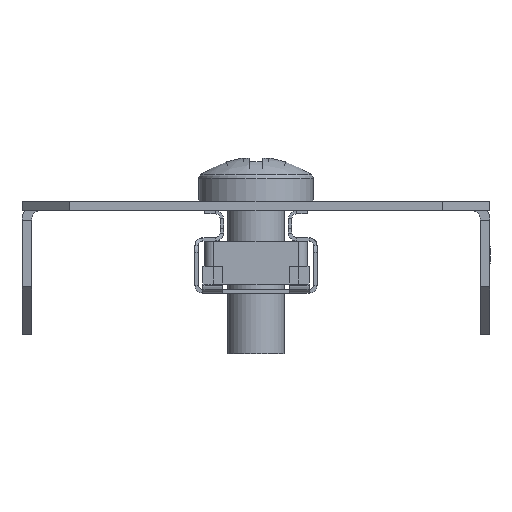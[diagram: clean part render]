
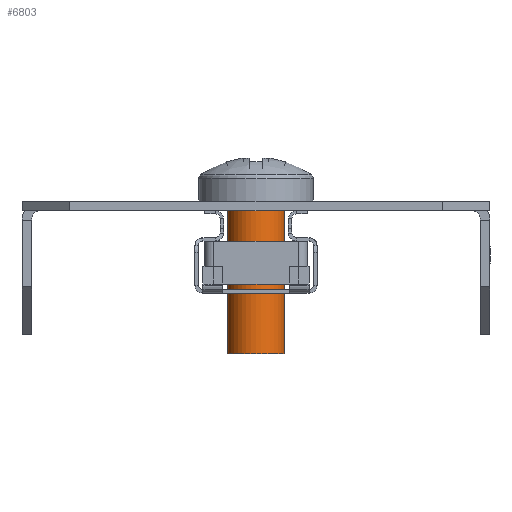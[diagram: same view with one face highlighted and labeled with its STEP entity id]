
A CAD part, left-side view. The second image highlights one B-rep face of the part: STEP entity #6803.
In plain terms, the highlighted cylindrical face has radius 3 mm (diameter 6 mm), a full revolution.
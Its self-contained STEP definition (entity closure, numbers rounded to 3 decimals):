
#390 = AXIS2_PLACEMENT_3D ( 'NONE', #3240, #3697, #2125 ) ;
#577 = EDGE_CURVE ( 'NONE', #2408, #2408, #2189, .T. ) ;
#1024 = ORIENTED_EDGE ( 'NONE', *, *, #577, .T. ) ;
#1061 = CYLINDRICAL_SURFACE ( 'NONE', #390, 3. ) ;
#1371 = AXIS2_PLACEMENT_3D ( 'NONE', #2830, #3893, #2866 ) ;
#1827 = EDGE_LOOP ( 'NONE', ( #1024 ) ) ;
#1848 = AXIS2_PLACEMENT_3D ( 'NONE', #4153, #6310, #5765 ) ;
#1942 = CARTESIAN_POINT ( 'NONE',  ( 4.85, 0., 3. ) ) ;
#2125 = DIRECTION ( 'NONE',  ( 0., 0., 1. ) ) ;
#2189 = CIRCLE ( 'NONE', #1848, 3. ) ;
#2408 = VERTEX_POINT ( 'NONE', #1942 ) ;
#2830 = CARTESIAN_POINT ( 'NONE',  ( 20.6, 0., 0. ) ) ;
#2866 = DIRECTION ( 'NONE',  ( 0., 0., 1. ) ) ;
#3240 = CARTESIAN_POINT ( 'NONE',  ( -25.4, 0., 0. ) ) ;
#3697 = DIRECTION ( 'NONE',  ( -1., 0., 0. ) ) ;
#3893 = DIRECTION ( 'NONE',  ( -1., 0., 0. ) ) ;
#3949 = ORIENTED_EDGE ( 'NONE', *, *, #4957, .T. ) ;
#4153 = CARTESIAN_POINT ( 'NONE',  ( 4.85, 0., 0. ) ) ;
#4651 = CARTESIAN_POINT ( 'NONE',  ( 20.6, 0., 3. ) ) ;
#4845 = FACE_OUTER_BOUND ( 'NONE', #1827, .T. ) ;
#4957 = EDGE_CURVE ( 'NONE', #6848, #6848, #6589, .T. ) ;
#5765 = DIRECTION ( 'NONE',  ( 0., 0., 1. ) ) ;
#5815 = FACE_OUTER_BOUND ( 'NONE', #6658, .T. ) ;
#6310 = DIRECTION ( 'NONE',  ( 1., 0., 0. ) ) ;
#6589 = CIRCLE ( 'NONE', #1371, 3. ) ;
#6658 = EDGE_LOOP ( 'NONE', ( #3949 ) ) ;
#6803 = ADVANCED_FACE ( 'NONE', ( #4845, #5815 ), #1061, .T. ) ;
#6848 = VERTEX_POINT ( 'NONE', #4651 ) ;
